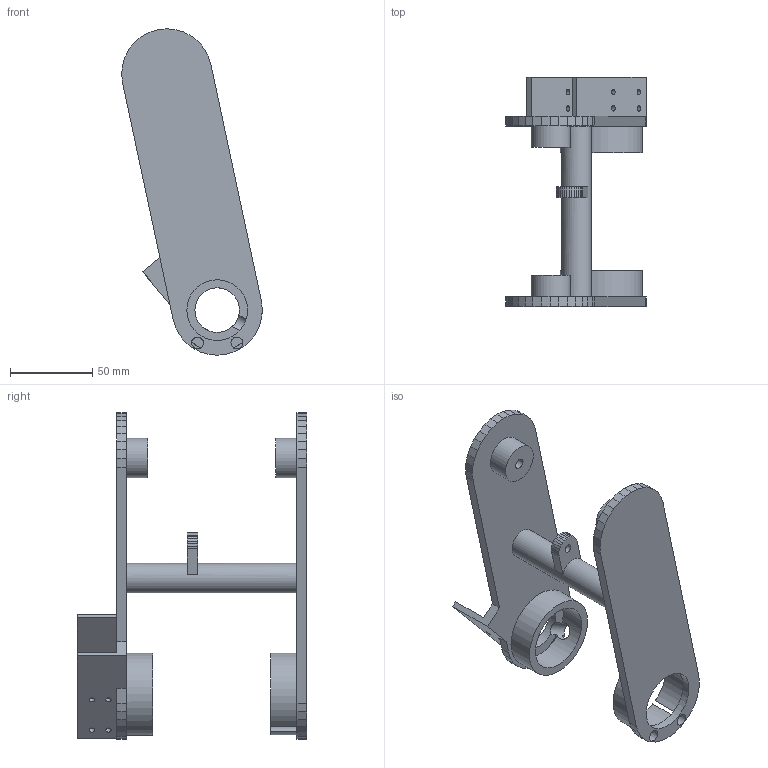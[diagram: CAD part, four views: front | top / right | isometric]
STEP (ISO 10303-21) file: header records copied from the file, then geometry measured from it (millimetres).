
FILE_DESCRIPTION(('Open CASCADE Model'),'2;1');
FILE_NAME('Open CASCADE Shape Model','2026-10-16T05:05:18',('Author'),( 'Open CASCADE'),'Open CASCADE STEP processor 7.9','Open CASCADE 7.9' ,'Unknown');
FILE_SCHEMA(('AUTOMOTIVE_DESIGN { 1 0 10303 214 1 1 1 1 }'));
Length unit declared in the file: millimetre
Products named in the file (1): Open CASCADE STEP translator 7.9 3
Bounding box: 85.74 x 140 x 199.03 mm (x, y, z)
Volume: 176775.7 mm3; surface area: 74861.9 mm2
Topology: 1 solids, 1 shells, 156 faces, 440 edges, 294 vertices
Faces by surface type: plane 125, cylinder 31
Full cylindrical faces by diameter (mm): 3 x3, 3.3 x8, 4.9 x1, 6.3 x2, 7.2 x2, 10 x1, 11 x2, 18 x1, 24 x2, 37 x1, 40 x1, 50 x1
Entity records: 12566 total; most frequent: CARTESIAN_POINT 3890, DIRECTION 1555, LINE 1064, VECTOR 1064, ORIENTED_EDGE 880, PCURVE 880, DEFINITIONAL_REPRESENTATION 880, EDGE_CURVE 440
